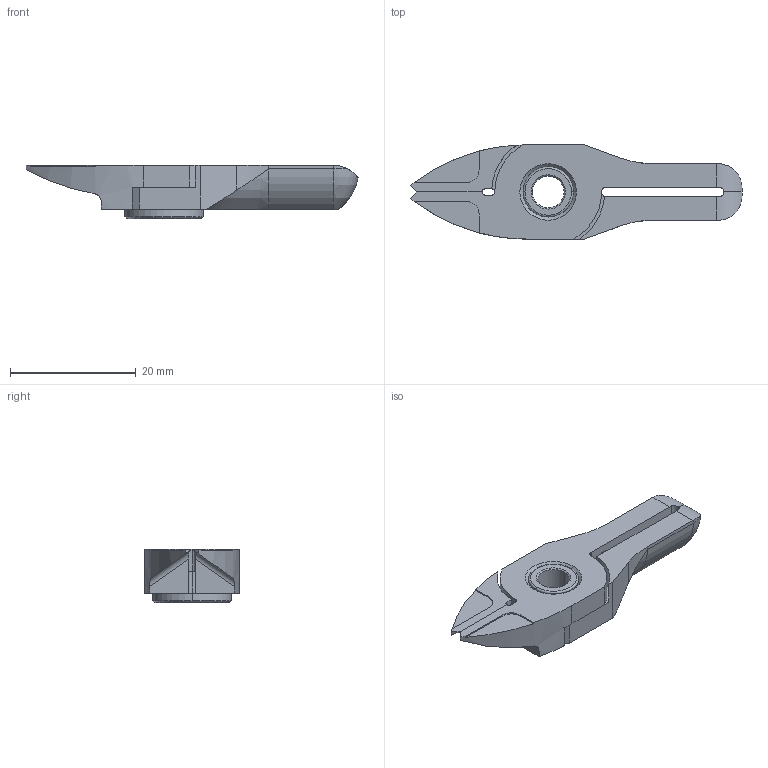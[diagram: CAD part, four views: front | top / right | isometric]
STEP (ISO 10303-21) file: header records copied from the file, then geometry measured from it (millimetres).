
FILE_DESCRIPTION (( 'STEP AP214' ), '1' );
FILE_NAME ('NY05RAJ.STEP', '2019-11-28T02:51:10', ( '微软用户' ), ( '微软中国' ), 'SwSTEP 2.0', 'SolidWorks 2016', '' );
FILE_SCHEMA (( 'AUTOMOTIVE_DESIGN' ));
Length unit declared in the file: millimetre
Products named in the file (1): NY05RAJ
Bounding box: 52.87 x 15 x 8.5 mm (x, y, z)
Surface area: 3311.1 mm2 (no closed solid volume)
Topology: 0 solids, 4 shells, 121 faces, 324 edges, 204 vertices
Faces by surface type: cylinder 50, plane 39, cone 22, torus 8, bspline 2
Entity records: 4097 total; most frequent: CARTESIAN_POINT 1032, DIRECTION 660, ORIENTED_EDGE 616, EDGE_CURVE 320, AXIS2_PLACEMENT_3D 252, VERTEX_POINT 204, VECTOR 156, LINE 156
